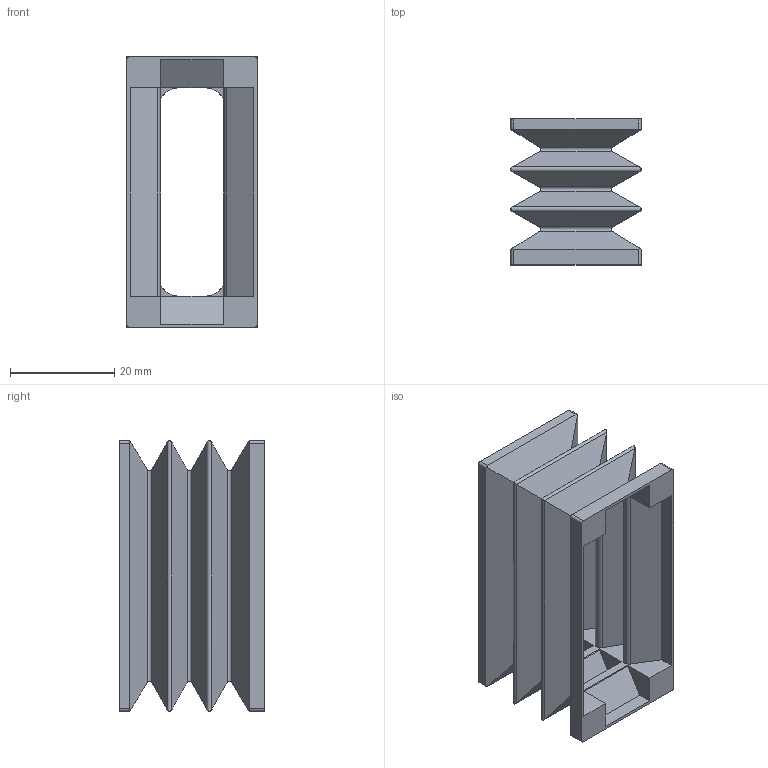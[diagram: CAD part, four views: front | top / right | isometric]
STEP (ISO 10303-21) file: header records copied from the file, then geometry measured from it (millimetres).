
FILE_DESCRIPTION (( 'STEP AP214' ), '1' );
FILE_NAME ('35RB.522528.STEP', '2026-03-23T15:30:09', ( '' ), ( '' ), 'SwSTEP 2.0', 'SolidWorks 2025', '' );
FILE_SCHEMA (( 'AUTOMOTIVE_DESIGN' ));
Length unit declared in the file: millimetre
Products named in the file (1): 35RB.522528
Bounding box: 25 x 28 x 52 mm (x, y, z)
Volume: 6131.6 mm3; surface area: 13206.1 mm2
Topology: 1 solids, 1 shells, 140 faces, 358 edges, 224 vertices
Faces by surface type: plane 90, cylinder 50
Entity records: 4345 total; most frequent: CARTESIAN_POINT 967, ORIENTED_EDGE 716, DIRECTION 660, EDGE_CURVE 358, VECTOR 266, LINE 266, VERTEX_POINT 224, AXIS2_PLACEMENT_3D 197
